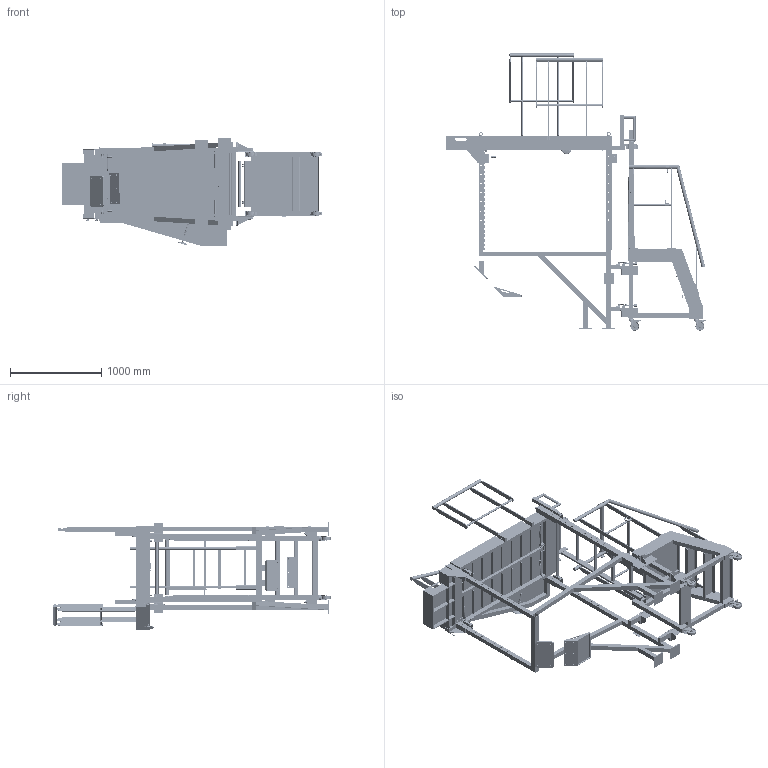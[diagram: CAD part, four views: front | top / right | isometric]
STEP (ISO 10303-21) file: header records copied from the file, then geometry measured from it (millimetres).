
FILE_DESCRIPTION((''),'2;1');
FILE_NAME('ASM_PLATEFORME_PI6','2026-06-03T10:24:44',('0z939456'),('TechnicAtome'),'CREO PARAMETRIC BY PTC INC, 2023494','CREO PARAMETRIC BY PTC INC, 2023494','');
FILE_SCHEMA(('AUTOMOTIVE_DESIGN { 1 0 10303 214 1 1 1 1 }'));
Products named in the file (138): MONTANT_DROIT_STRUCTURE_FIXE; MONTANT_GAUCHE_STRUCTURE_FIXE; PIED_STRUCTURE_FIXE; 24052-181_-_CR_X2_00E9_X0_MAILL; BLOC_BUT_X2_00E9_X0_E_FIXE_A; MARCHE_PIEDESTAL; 07695-10151; STRUCTURE_FIXE_ASM; CADRE_STRUCTURE_MOBILE; 27877-01_LINKS161_A; 27860-01_RECHTS161_A; CHARNIERE_GAUCHE_AF2; CHARNIERE_GAUCHE_AF3; VOLET_GAUCHE; CHARNI_X2_00E8_X0_RE_INOX-48017_AF3; CHARNI_X2_00E8_X0_RE_INOX-48017_AF4; VOLET_DROIT; 24052-PLA-120_-_AXE_CLIQUET_A_1; 24052-PLA-126_-_RONDELLE_M12__1; GOUPILLE_CYLINDRIQUE_ISO_-27414; GOUPILLE_CYLINDRIQUE_ISO_-27473; VIS_TBHC_-_M5__X2_00D7_X0__10_1; 24052-PLA-129_-_CAPOT_DE_BO_X_1; 24052-PLA-124-LOQUET_CLIP_DE__1; GOUPILLE_CYLINDRIQUE_ISO_-27856; 24052-PLA-123-RESSORT_DE_TORS_1; 24052-PLA-118_-_BAGUE_PLASTIQ_1; 24052-PLA-117_-_AXE_BIELLETTE_1; 24052-PLA-116_-_BIELETTE_A_1; 24052-EPL-18_-_BIELLETTE_DE_M_1; 24052-PLA-121_-_CLIQUET_A_1; 24052-PLA-119_-_SUPPORT_CLIQU_1; 24052-PLA-122_-_SUPPORT_CLIQU_1; ACTIONNEUR_DR; ACTIONNEUR_GA; 24052-237_-_BAGUE_DE_MANOEUVRE_; VIS_SANS_T_X2_00EA_X0_TE__X2_00; 24052-234_-_TUBE_ROND__33_7_X_2; ACTIONNEUR_ARRIERE; TRAVERSE_AVANT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
Assembly tree (253 placements, depth 6):
  ASM_PLATEFORME_PI6
    STRUCTURE_FIXE_ASM
      MONTANT_DROIT_STRUCTURE_FIXE
      MONTANT_GAUCHE_STRUCTURE_FIXE
      PIED_STRUCTURE_FIXE
      24052-181_-_CR_X2_00E9_X0_MAILL  x4
      BLOC_BUT_X2_00E9_X0_E_FIXE_A  x4
      MARCHE_PIEDESTAL
      07695-10151  x4
    STRUCTURE_MOBILE_ASM_AF2
      CADRE_STRUCTURE_MOBILE
      CHARNIERE_GAUCHE_AF2
        27877-01_LINKS161_A
        27860-01_RECHTS161_A
      CHARNIERE_GAUCHE_AF3
        27877-01_LINKS161_A
        27860-01_RECHTS161_A
      VOLET_GAUCHE
      CHARNI_X2_00E8_X0_RE_INOX-48017_AF3
        27877-01_LINKS161_A
        27860-01_RECHTS161_A
      CHARNI_X2_00E8_X0_RE_INOX-48017_AF4
        27877-01_LINKS161_A
        27860-01_RECHTS161_A
      VOLET_DROIT
      ACTIONNEUR_ARRIERE
        ACTIONNEUR_DR
          24052-PLA-120_-_AXE_CLIQUET_A_1
          24052-PLA-126_-_RONDELLE_M12__1  x2
          GOUPILLE_CYLINDRIQUE_ISO_-27414
          GOUPILLE_CYLINDRIQUE_ISO_-27473
          VIS_TBHC_-_M5__X2_00D7_X0__10_1  x4
          24052-PLA-129_-_CAPOT_DE_BO_X_1
          24052-PLA-124-LOQUET_CLIP_DE__1
          GOUPILLE_CYLINDRIQUE_ISO_-27856  x2
          24052-PLA-123-RESSORT_DE_TORS_1
          24052-PLA-118_-_BAGUE_PLASTIQ_1  x2
          24052-EPL-18_-_BIELLETTE_DE_M_1
            24052-PLA-117_-_AXE_BIELLETTE_1
            24052-PLA-116_-_BIELETTE_A_1
          24052-PLA-121_-_CLIQUET_A_1
          24052-PLA-119_-_SUPPORT_CLIQU_1
          24052-PLA-122_-_SUPPORT_CLIQU_1
        ACTIONNEUR_GA
          24052-PLA-120_-_AXE_CLIQUET_A_1
          24052-PLA-126_-_RONDELLE_M12__1  x2
          GOUPILLE_CYLINDRIQUE_ISO_-27414
          GOUPILLE_CYLINDRIQUE_ISO_-27473
          VIS_TBHC_-_M5__X2_00D7_X0__10_1  x4
          24052-PLA-129_-_CAPOT_DE_BO_X_1
          24052-PLA-124-LOQUET_CLIP_DE__1
          24052-PLA-123-RESSORT_DE_TORS_1
          24052-EPL-18_-_BIELLETTE_DE_M_1
            24052-PLA-117_-_AXE_BIELLETTE_1
            24052-PLA-116_-_BIELETTE_A_1
          24052-PLA-118_-_BAGUE_PLASTIQ_1  x2
          GOUPILLE_CYLINDRIQUE_ISO_-27856  x2
          24052-PLA-121_-_CLIQUET_A_1
          24052-PLA-119_-_SUPPORT_CLIQU_1
          24052-PLA-122_-_SUPPORT_CLIQU_1
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Bounding box: 2857.02 x 3041.87 x 1175 mm (x, y, z)
Volume: 54963044 mm3; surface area: 25724463.9 mm2
Topology: 320 solids, 390 shells, 19520 faces, 51794 edges, 33600 vertices
Faces by surface type: plane 8482, cylinder 4870, extrusion 2784, torus 1200, cone 1034, bspline 1018, sphere 128, revolution 4
Entity records: 298747 total; most frequent: CARTESIAN_POINT 68190, ORIENTED_EDGE 34305, DIRECTION 32272, PRESENTATION_STYLE_ASSIGNMENT 18752, STYLED_ITEM 17826, CURVE_STYLE 17675, EDGE_CURVE 17232, VERTEX_POINT 11177
